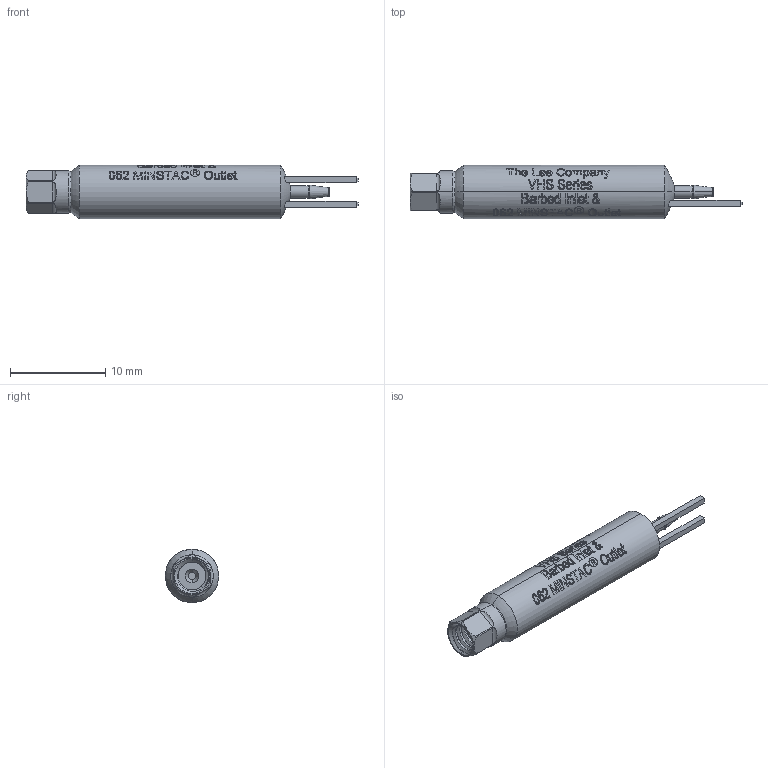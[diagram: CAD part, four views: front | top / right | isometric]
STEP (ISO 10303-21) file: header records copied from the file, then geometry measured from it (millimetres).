
FILE_DESCRIPTION (( 'STEP AP214' ), '1' );
FILE_NAME ('Lee-VHS_Series_PM-CAD_Model A2.step', '2021-03-05T15:15:38', ( '' ), ( '' ), 'SwSTEP 2.0', 'SolidWorks 2019', '' );
FILE_SCHEMA (( 'AUTOMOTIVE_DESIGN' ));
Length unit declared in the file: inch
Products named in the file (1): Lee-VHS_Series_PM-CAD_Model A2
Bounding box: 34.77 x 5.59 x 5.59 mm (x, y, z)
Volume: 583.9 mm3; surface area: 625.4 mm2
Topology: 1 solids, 1 shells, 802 faces, 2125 edges, 1407 vertices
Faces by surface type: bspline 411, plane 264, cylinder 107, torus 10, cone 10
Entity records: 62314 total; most frequent: CARTESIAN_POINT 35944, ORIENTED_EDGE 4250, EDGE_CURVE 2125, DIRECTION 1834, VERTEX_POINT 1407, B_SPLINE_CURVE_WITH_KNOTS 1353, EDGE_LOOP 884, ADVANCED_FACE 802
